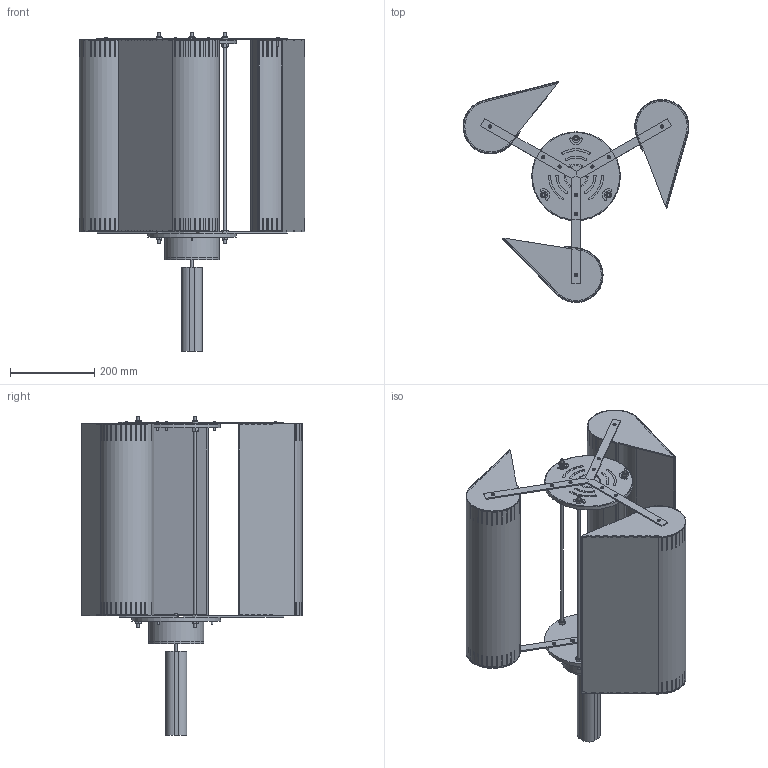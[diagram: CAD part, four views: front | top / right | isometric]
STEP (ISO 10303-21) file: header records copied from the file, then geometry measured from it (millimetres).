
FILE_DESCRIPTION(('FreeCAD Model'),'2;1');
FILE_NAME('Open CASCADE Shape Model','2021-10-12T16:55:33',('Author'),( ''),'Open CASCADE STEP processor 7.4','FreeCAD','Unknown');
FILE_SCHEMA(('AUTOMOTIVE_DESIGN { 1 0 10303 214 1 1 1 1 }'));
Length unit declared in the file: millimetre
Products named in the file (54): Assy_Lenz2_WT; Disque_Helice_V2_001; Roulement_D22_001; Array; Aimants_001; Array001; Aimants_Halbach_001; Fer_Plat_Trous_001; Fer_Plat_Trous_002; Fer_Plat_Trous_003; Tige_Filletee_M8_001; Array002; Petale_001; Array003; Pliage_Aile_001; Array004; Petale_002; Array005; Fer_Plat_Trous_Haut_001; Array006; Feuille_Adhesive_001; Base_Rotor_001; Roulement_D22_002; Disque_Haut_001; Tige_Filletee_M8_Longue_001; Tige_Filletee_M8_Longue_002; Tige_Filletee_M8_Longue_003; M8-Nut; Support_Stator_001; Socle_001; Array007; M4x20-Screw; Array008; M4x20-Screw002; Array009; M4x20-Screw001; M8-Nut004; M8-Nut005; M8-Nut006; M8-Nut001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
Assembly tree (91 placements, depth 3):
  Assy_Lenz2_WT
    Disque_Helice_V2_001
    Roulement_D22_001
    Array
      Aimants_001  x12
    Array001
      Aimants_Halbach_001  x12
    Fer_Plat_Trous_001
    Fer_Plat_Trous_002
    Fer_Plat_Trous_003
    Tige_Filletee_M8_001
    Array002
      Petale_001  x3
    Array003
      Pliage_Aile_001  x3
    Array004
      Petale_002  x3
    Array005
      Fer_Plat_Trous_Haut_001  x3
    Array006
      Feuille_Adhesive_001  x3
    Base_Rotor_001
    Roulement_D22_002
    Disque_Haut_001
    Tige_Filletee_M8_Longue_001
    Tige_Filletee_M8_Longue_002
    Tige_Filletee_M8_Longue_003
    M8-Nut
    Support_Stator_001
    Socle_001
    Array007
      M4x20-Screw  x3
    Array008
      M4x20-Screw002  x3
    Array009
      M4x20-Screw001  x3
    M8-Nut004
    M8-Nut005
    M8-Nut006
    M8-Nut001
    M8-Nut002
    M8-Nut003
    M8-Nut007
    M8-Nut008
    M8-Nut009
    M8-Nut013
    M8-Nut014
    M8-Nut015
    M4x20-Screw003
    M4x20-Screw004
    M4x20-Screw005
    M4x20-Screw006
    M4x20-Screw007
    M4x20-Screw008
Bounding box: 535.3 x 523.61 x 755.99 mm (x, y, z)
Volume: 4592636 mm3; surface area: 3196057.7 mm2
Topology: 85 solids, 85 shells, 2634 faces, 6970 edges, 4511 vertices
Faces by surface type: plane 1557, cylinder 473, bspline 234, cone 216, torus 81, sphere 58, revolution 15
Full cylindrical faces by diameter (mm): 4 x15, 4.3 x30, 6.647 x13, 6.75 x4, 8.4 x14, 8.833 x4, 12.987 x4, 15 x5, 22 x2, 110 x1, 130 x2, 210 x2
Entity records: 142529 total; most frequent: CARTESIAN_POINT 55510, DIRECTION 15789, ORIENTED_EDGE 8678, PCURVE 8678, DEFINITIONAL_REPRESENTATION 8678, LINE 8677, VECTOR 8677, EDGE_CURVE 4339
